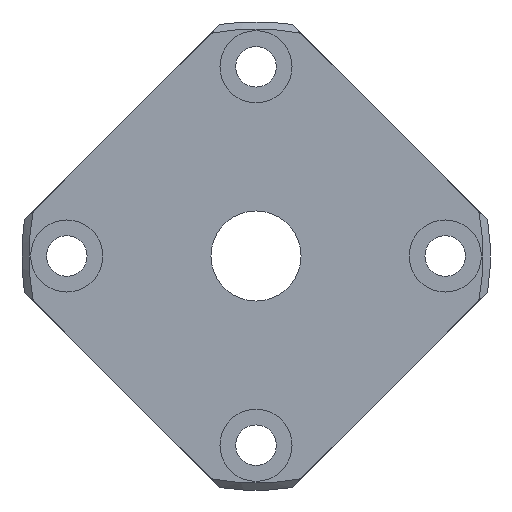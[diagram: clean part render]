
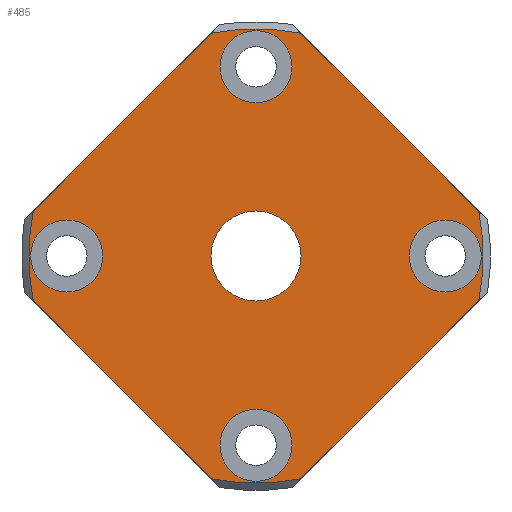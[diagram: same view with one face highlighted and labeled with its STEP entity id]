
A CAD part, left-side view. The second image highlights one B-rep face of the part: STEP entity #485.
In plain terms, the highlighted planar face has unit normal (-1, 0, 0).
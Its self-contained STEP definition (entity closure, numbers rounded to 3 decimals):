
#21=LINE('',#829,#37);
#28=LINE('',#844,#44);
#29=LINE('',#846,#45);
#30=LINE('',#848,#46);
#37=VECTOR('',#670,27.932);
#44=VECTOR('',#687,27.932);
#45=VECTOR('',#690,27.932);
#46=VECTOR('',#693,27.932);
#95=FACE_BOUND('',#183,.T.);
#96=FACE_BOUND('',#184,.T.);
#97=FACE_BOUND('',#185,.T.);
#98=FACE_BOUND('',#186,.T.);
#99=FACE_BOUND('',#187,.T.);
#130=FACE_OUTER_BOUND('',#182,.T.);
#182=EDGE_LOOP('',(#429,#430,#431,#432,#433,#434,#435,#436));
#183=EDGE_LOOP('',(#437));
#184=EDGE_LOOP('',(#438));
#185=EDGE_LOOP('',(#439));
#186=EDGE_LOOP('',(#440));
#187=EDGE_LOOP('',(#441));
#192=CIRCLE('',#493,4.);
#196=CIRCLE('',#500,4.);
#200=CIRCLE('',#507,4.);
#204=CIRCLE('',#514,4.);
#209=CIRCLE('',#523,5.);
#210=CIRCLE('',#525,25.22);
#212=CIRCLE('',#528,25.22);
#214=CIRCLE('',#531,25.22);
#216=CIRCLE('',#534,25.22);
#226=VERTEX_POINT('',#709);
#230=VERTEX_POINT('',#720);
#234=VERTEX_POINT('',#731);
#238=VERTEX_POINT('',#742);
#243=VERTEX_POINT('',#756);
#244=VERTEX_POINT('',#759);
#246=VERTEX_POINT('',#764);
#248=VERTEX_POINT('',#772);
#250=VERTEX_POINT('',#777);
#252=VERTEX_POINT('',#785);
#254=VERTEX_POINT('',#790);
#256=VERTEX_POINT('',#798);
#258=VERTEX_POINT('',#803);
#272=EDGE_CURVE('',#226,#226,#192,.T.);
#276=EDGE_CURVE('',#230,#230,#196,.T.);
#280=EDGE_CURVE('',#234,#234,#200,.T.);
#284=EDGE_CURVE('',#238,#238,#204,.T.);
#289=EDGE_CURVE('',#243,#243,#209,.T.);
#291=EDGE_CURVE('',#246,#244,#210,.T.);
#295=EDGE_CURVE('',#250,#248,#212,.T.);
#299=EDGE_CURVE('',#254,#252,#214,.T.);
#303=EDGE_CURVE('',#258,#256,#216,.T.);
#315=EDGE_CURVE('',#258,#248,#21,.T.);
#324=EDGE_CURVE('',#246,#252,#28,.T.);
#325=EDGE_CURVE('',#250,#244,#29,.T.);
#326=EDGE_CURVE('',#254,#256,#30,.T.);
#429=ORIENTED_EDGE('',*,*,#303,.T.);
#430=ORIENTED_EDGE('',*,*,#326,.F.);
#431=ORIENTED_EDGE('',*,*,#299,.T.);
#432=ORIENTED_EDGE('',*,*,#324,.F.);
#433=ORIENTED_EDGE('',*,*,#291,.T.);
#434=ORIENTED_EDGE('',*,*,#325,.F.);
#435=ORIENTED_EDGE('',*,*,#295,.T.);
#436=ORIENTED_EDGE('',*,*,#315,.F.);
#437=ORIENTED_EDGE('',*,*,#272,.T.);
#438=ORIENTED_EDGE('',*,*,#276,.T.);
#439=ORIENTED_EDGE('',*,*,#280,.T.);
#440=ORIENTED_EDGE('',*,*,#284,.T.);
#441=ORIENTED_EDGE('',*,*,#289,.T.);
#454=PLANE('',#552);
#485=ADVANCED_FACE('',(#130,#95,#96,#97,#98,#99),#454,.T.);
#493=AXIS2_PLACEMENT_3D('',#710,#564,#565);
#500=AXIS2_PLACEMENT_3D('',#721,#578,#579);
#507=AXIS2_PLACEMENT_3D('',#732,#592,#593);
#514=AXIS2_PLACEMENT_3D('',#743,#606,#607);
#523=AXIS2_PLACEMENT_3D('',#757,#624,#625);
#525=AXIS2_PLACEMENT_3D('',#765,#628,#629);
#528=AXIS2_PLACEMENT_3D('',#778,#634,#635);
#531=AXIS2_PLACEMENT_3D('',#791,#640,#641);
#534=AXIS2_PLACEMENT_3D('',#804,#646,#647);
#552=AXIS2_PLACEMENT_3D('',#852,#698,#699);
#564=DIRECTION('center_axis',(1.,0.,0.));
#565=DIRECTION('ref_axis',(0.,-1.,0.));
#578=DIRECTION('center_axis',(1.,0.,0.));
#579=DIRECTION('ref_axis',(0.,0.,1.));
#592=DIRECTION('center_axis',(1.,0.,0.));
#593=DIRECTION('ref_axis',(0.,1.,0.));
#606=DIRECTION('center_axis',(1.,0.,0.));
#607=DIRECTION('ref_axis',(0.,0.,-1.));
#624=DIRECTION('center_axis',(1.,0.,0.));
#625=DIRECTION('ref_axis',(0.,0.,-1.));
#628=DIRECTION('center_axis',(-1.,0.,0.));
#629=DIRECTION('ref_axis',(0.,1.,0.));
#634=DIRECTION('center_axis',(-1.,0.,0.));
#635=DIRECTION('ref_axis',(0.,1.,0.));
#640=DIRECTION('center_axis',(-1.,0.,0.));
#641=DIRECTION('ref_axis',(0.,1.,0.));
#646=DIRECTION('center_axis',(-1.,0.,0.));
#647=DIRECTION('ref_axis',(0.,1.,0.));
#670=DIRECTION('',(0.,-0.707,-0.707));
#687=DIRECTION('',(0.,0.707,0.707));
#690=DIRECTION('',(0.,0.707,-0.707));
#693=DIRECTION('',(0.,-0.707,0.707));
#698=DIRECTION('center_axis',(-1.,0.,0.));
#699=DIRECTION('ref_axis',(0.,0.,1.));
#709=CARTESIAN_POINT('',(0.,4.,-21.));
#710=CARTESIAN_POINT('Origin',(0.,0.,-21.));
#720=CARTESIAN_POINT('',(0.,-21.,-4.));
#721=CARTESIAN_POINT('Origin',(0.,-21.,0.));
#731=CARTESIAN_POINT('',(0.,-4.,21.));
#732=CARTESIAN_POINT('Origin',(0.,0.,21.));
#742=CARTESIAN_POINT('',(0.,21.,4.));
#743=CARTESIAN_POINT('Origin',(0.,21.,0.));
#756=CARTESIAN_POINT('',(0.,0.,5.));
#757=CARTESIAN_POINT('Origin',(0.,0.,0.));
#759=CARTESIAN_POINT('',(0.,-4.974,-24.725));
#764=CARTESIAN_POINT('',(0.,4.974,-24.725));
#765=CARTESIAN_POINT('Origin',(0.,0.,0.));
#772=CARTESIAN_POINT('',(0.,-24.725,4.974));
#777=CARTESIAN_POINT('',(0.,-24.725,-4.974));
#778=CARTESIAN_POINT('Origin',(0.,0.,0.));
#785=CARTESIAN_POINT('',(0.,24.725,-4.974));
#790=CARTESIAN_POINT('',(0.,24.725,4.974));
#791=CARTESIAN_POINT('Origin',(0.,0.,0.));
#798=CARTESIAN_POINT('',(0.,4.974,24.725));
#803=CARTESIAN_POINT('',(0.,-4.974,24.725));
#804=CARTESIAN_POINT('Origin',(0.,0.,0.));
#829=CARTESIAN_POINT('',(0.,-14.849,14.849));
#844=CARTESIAN_POINT('',(0.,14.849,-14.849));
#846=CARTESIAN_POINT('',(0.,-14.849,-14.849));
#848=CARTESIAN_POINT('',(0.,14.849,14.849));
#852=CARTESIAN_POINT('Origin',(0.,0.,0.));
